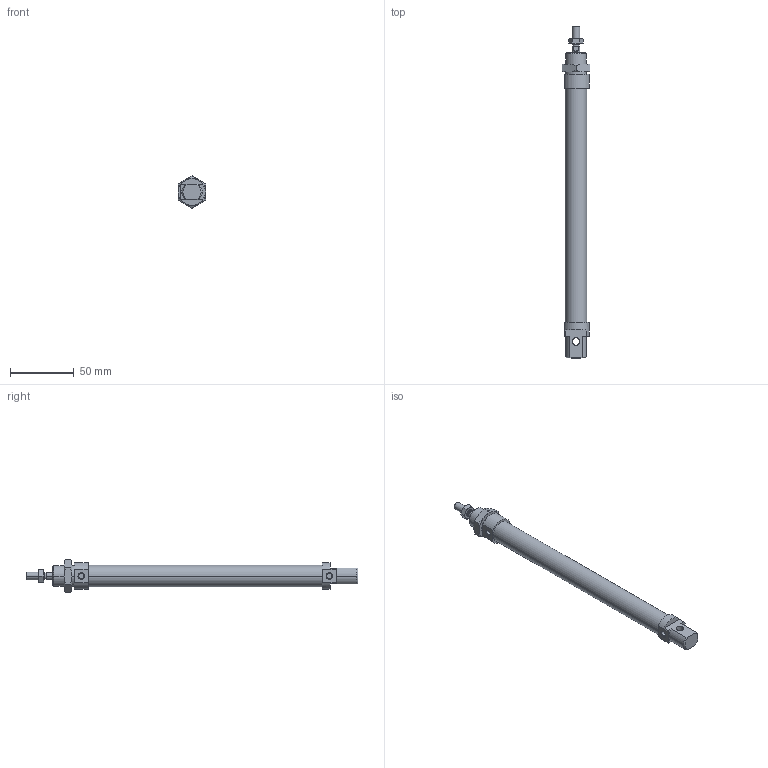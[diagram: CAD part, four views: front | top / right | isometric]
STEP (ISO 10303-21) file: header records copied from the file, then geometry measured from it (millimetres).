
FILE_DESCRIPTION((''),'2;1');
FILE_NAME('I:\DOC-EDP\Lib-3d\1200\CILINDRI\1280\1280_16_0150.stp','2003-04-07T15:04:08',('maffial1'),(''),'Autodesk Inventor (R) 6.0','Autodesk Inventor (R) 6.0','');
FILE_SCHEMA(('AUTOMOTIVE_DESIGN { 1 0 10303 214 1 1 1 1 }'));
Length unit declared in the file: millimetre
Products named in the file (5): 1280_16_0150; S1280_16_150; 1200_16_05; 1200_16_06; C1280_16_150
Assembly tree (4 placements, depth 2):
  1280_16_0150
    S1280_16_150
    1200_16_05
    1200_16_06
    C1280_16_150
Bounding box: 22 x 261 x 25.4 mm (x, y, z)
Volume: 57713.7 mm3; surface area: 22807 mm2
Topology: 4 solids, 4 shells, 121 faces, 268 edges, 162 vertices
Faces by surface type: cone 40, plane 39, cylinder 22, bspline 20
Entity records: 3653 total; most frequent: CARTESIAN_POINT 976, DIRECTION 556, ORIENTED_EDGE 536, EDGE_CURVE 268, AXIS2_PLACEMENT_3D 230, VERTEX_POINT 162, EDGE_LOOP 134, FACE_OUTER_BOUND 121
